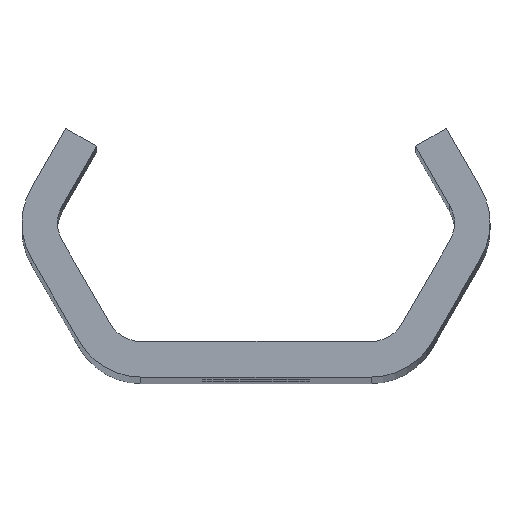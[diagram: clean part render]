
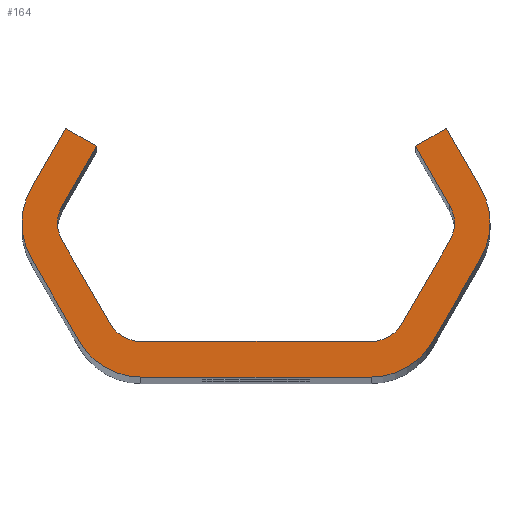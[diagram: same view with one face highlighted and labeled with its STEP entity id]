
A CAD part, top view. The second image highlights one B-rep face of the part: STEP entity #164.
In plain terms, the highlighted planar face has unit normal (0, 0, 1).
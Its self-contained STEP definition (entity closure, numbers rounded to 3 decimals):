
#164=ADVANCED_FACE('NONE',(#402),#403,.F.);
#402=FACE_OUTER_BOUND('',#1046,.T.);
#403=PLANE('',#1047);
#1046=EDGE_LOOP('',(#2030,#2031,#2032,#2033,#2034,#2035,#2036,#2037,#2038,#2039,#2040,#2041,#2042,#2043,#2044,#2045,#2046,#2047,#2048,#2049,#2050,#2051,#2052,#2053));
#1047=AXIS2_PLACEMENT_3D('',#2054,#2055,#2056);
#2030=ORIENTED_EDGE('',*,*,#2749,.T.);
#2031=ORIENTED_EDGE('',*,*,#2764,.T.);
#2032=ORIENTED_EDGE('',*,*,#2662,.T.);
#2033=ORIENTED_EDGE('',*,*,#2751,.T.);
#2034=ORIENTED_EDGE('',*,*,#2765,.T.);
#2035=ORIENTED_EDGE('',*,*,#2755,.T.);
#2036=ORIENTED_EDGE('',*,*,#2766,.T.);
#2037=ORIENTED_EDGE('',*,*,#2669,.T.);
#2038=ORIENTED_EDGE('',*,*,#2767,.T.);
#2039=ORIENTED_EDGE('',*,*,#2615,.T.);
#2040=ORIENTED_EDGE('',*,*,#2672,.T.);
#2041=ORIENTED_EDGE('',*,*,#2678,.T.);
#2042=ORIENTED_EDGE('',*,*,#2681,.T.);
#2043=ORIENTED_EDGE('',*,*,#2659,.T.);
#2044=ORIENTED_EDGE('',*,*,#2768,.T.);
#2045=ORIENTED_EDGE('',*,*,#2683,.T.);
#2046=ORIENTED_EDGE('',*,*,#2769,.T.);
#2047=ORIENTED_EDGE('',*,*,#2690,.T.);
#2048=ORIENTED_EDGE('',*,*,#2770,.T.);
#2049=ORIENTED_EDGE('',*,*,#2736,.T.);
#2050=ORIENTED_EDGE('',*,*,#2771,.T.);
#2051=ORIENTED_EDGE('',*,*,#2610,.T.);
#2052=ORIENTED_EDGE('',*,*,#2739,.T.);
#2053=ORIENTED_EDGE('',*,*,#2745,.T.);
#2054=CARTESIAN_POINT('',(0.0,0.0,320.0));
#2055=DIRECTION('',(0.0,0.0,-1.0));
#2056=DIRECTION('',(0.0,-1.0,0.0));
#2610=EDGE_CURVE('NONE',#2940,#2944,#2946,.T.);
#2615=EDGE_CURVE('NONE',#2949,#2953,#2955,.T.);
#2659=EDGE_CURVE('NONE',#3034,#3032,#3035,.T.);
#2662=EDGE_CURVE('NONE',#3038,#3039,#3040,.T.);
#2669=EDGE_CURVE('NONE',#3052,#3050,#3053,.T.);
#2672=EDGE_CURVE('NONE',#2953,#3056,#3057,.T.);
#2678=EDGE_CURVE('NONE',#3056,#3064,#3066,.T.);
#2681=EDGE_CURVE('NONE',#3064,#3034,#3069,.T.);
#2683=EDGE_CURVE('NONE',#3071,#3072,#3073,.T.);
#2690=EDGE_CURVE('NONE',#3085,#3083,#3086,.T.);
#2736=EDGE_CURVE('NONE',#3170,#3168,#3171,.T.);
#2739=EDGE_CURVE('NONE',#2944,#3174,#3175,.T.);
#2745=EDGE_CURVE('NONE',#3174,#3182,#3184,.T.);
#2749=EDGE_CURVE('NONE',#3182,#3188,#3190,.T.);
#2751=EDGE_CURVE('NONE',#3039,#3192,#3193,.T.);
#2755=EDGE_CURVE('NONE',#3198,#3199,#3200,.T.);
#2764=EDGE_CURVE('NONE',#3188,#3038,#3211,.T.);
#2765=EDGE_CURVE('NONE',#3192,#3198,#3212,.T.);
#2766=EDGE_CURVE('NONE',#3199,#3052,#3213,.T.);
#2767=EDGE_CURVE('NONE',#3050,#2949,#3214,.T.);
#2768=EDGE_CURVE('NONE',#3032,#3071,#3215,.T.);
#2769=EDGE_CURVE('NONE',#3072,#3085,#3216,.T.);
#2770=EDGE_CURVE('NONE',#3083,#3170,#3217,.T.);
#2771=EDGE_CURVE('NONE',#3168,#2940,#3218,.T.);
#2940=VERTEX_POINT('',#3432);
#2944=VERTEX_POINT('NONE',#3437);
#2946=CIRCLE('',#3440,3.0);
#2949=VERTEX_POINT('',#3443);
#2953=VERTEX_POINT('NONE',#3448);
#2955=CIRCLE('',#3451,6.0);
#3032=VERTEX_POINT('NONE',#3886);
#3034=VERTEX_POINT('NONE',#3889);
#3035=CIRCLE('',#3890,3.0);
#3038=VERTEX_POINT('NONE',#3894);
#3039=VERTEX_POINT('NONE',#3895);
#3040=CIRCLE('',#3896,6.0);
#3050=VERTEX_POINT('NONE',#3909);
#3052=VERTEX_POINT('NONE',#3912);
#3053=LINE('',#3913,#3914);
#3056=VERTEX_POINT('NONE',#3918);
#3057=LINE('',#3919,#3920);
#3064=VERTEX_POINT('NONE',#3930);
#3066=LINE('',#3933,#3934);
#3069=LINE('',#3938,#3939);
#3071=VERTEX_POINT('NONE',#3941);
#3072=VERTEX_POINT('NONE',#3942);
#3073=LINE('',#3943,#3944);
#3083=VERTEX_POINT('NONE',#3958);
#3085=VERTEX_POINT('NONE',#3961);
#3086=LINE('',#3962,#3963);
#3168=VERTEX_POINT('NONE',#4247);
#3170=VERTEX_POINT('NONE',#4250);
#3171=LINE('',#4251,#4252);
#3174=VERTEX_POINT('NONE',#4256);
#3175=LINE('',#4257,#4258);
#3182=VERTEX_POINT('NONE',#4268);
#3184=LINE('',#4271,#4272);
#3188=VERTEX_POINT('NONE',#4277);
#3190=LINE('',#4280,#4281);
#3192=VERTEX_POINT('NONE',#4283);
#3193=LINE('',#4284,#4285);
#3198=VERTEX_POINT('NONE',#4292);
#3199=VERTEX_POINT('NONE',#4293);
#3200=LINE('',#4294,#4295);
#3211=CIRCLE('',#4309,6.0);
#3212=CIRCLE('',#4310,6.0);
#3213=CIRCLE('',#4311,6.0);
#3214=CIRCLE('',#4312,6.0);
#3215=CIRCLE('',#4313,3.0);
#3216=CIRCLE('',#4314,3.0);
#3217=CIRCLE('',#4315,3.0);
#3218=CIRCLE('',#4316,3.0);
#3432=CARTESIAN_POINT('',(-16.764,0.,320.0));
#3437=CARTESIAN_POINT('',(-16.362,1.5,320.0));
#3440=AXIS2_PLACEMENT_3D('',#4983,#4984,#4985);
#3443=CARTESIAN_POINT('',(19.764,0.,320.0));
#3448=CARTESIAN_POINT('',(18.96,3.,320.0));
#3451=AXIS2_PLACEMENT_3D('',#4991,#4992,#4993);
#3886=CARTESIAN_POINT('',(16.764,0.,320.0));
#3889=CARTESIAN_POINT('',(16.362,1.5,320.0));
#3890=AXIS2_PLACEMENT_3D('',#5038,#5039,#5040);
#3894=CARTESIAN_POINT('',(-19.764,0.,320.0));
#3895=CARTESIAN_POINT('',(-18.96,-3.,320.0));
#3896=AXIS2_PLACEMENT_3D('',#5042,#5043,#5044);
#3909=CARTESIAN_POINT('',(18.96,-3.,320.0));
#3912=CARTESIAN_POINT('',(14.919,-10.,320.0));
#3913=CARTESIAN_POINT('',(20.692,0.,320.0));
#3914=VECTOR('',#5052,1000.0);
#3918=CARTESIAN_POINT('',(16.074,8.,320.0));
#3919=CARTESIAN_POINT('',(16.074,8.,320.0));
#3920=VECTOR('',#5054,1000.0);
#3930=CARTESIAN_POINT('',(13.475,6.5,320.0));
#3933=CARTESIAN_POINT('',(13.475,6.5,320.0));
#3934=VECTOR('',#5059,1000.0);
#3938=CARTESIAN_POINT('',(17.228,0.,320.0));
#3939=VECTOR('',#5061,1000.0);
#3941=CARTESIAN_POINT('',(16.362,-1.5,320.0));
#3942=CARTESIAN_POINT('',(12.321,-8.5,320.0));
#3943=CARTESIAN_POINT('',(11.455,-10.0,320.0));
#3944=VECTOR('',#5062,1000.0);
#3958=CARTESIAN_POINT('',(-9.723,-10.0,320.0));
#3961=CARTESIAN_POINT('',(9.723,-10.0,320.0));
#3962=CARTESIAN_POINT('',(-11.455,-10.0,320.0));
#3963=VECTOR('',#5068,1000.0);
#4247=CARTESIAN_POINT('',(-16.362,-1.5,320.0));
#4250=CARTESIAN_POINT('',(-12.321,-8.5,320.0));
#4251=CARTESIAN_POINT('',(-17.228,0.,320.0));
#4252=VECTOR('',#5117,1000.0);
#4256=CARTESIAN_POINT('',(-13.475,6.5,320.0));
#4257=CARTESIAN_POINT('',(-13.475,6.5,320.0));
#4258=VECTOR('',#5119,1000.0);
#4268=CARTESIAN_POINT('',(-16.074,8.,320.0));
#4271=CARTESIAN_POINT('',(-13.475,6.5,320.0));
#4272=VECTOR('',#5124,1000.0);
#4277=CARTESIAN_POINT('',(-18.96,3.,320.0));
#4280=CARTESIAN_POINT('',(-16.074,8.,320.0));
#4281=VECTOR('',#5127,1000.0);
#4283=CARTESIAN_POINT('',(-14.919,-10.,320.0));
#4284=CARTESIAN_POINT('',(-20.692,0.,320.0));
#4285=VECTOR('',#5128,1000.0);
#4292=CARTESIAN_POINT('',(-9.723,-13.0,320.0));
#4293=CARTESIAN_POINT('',(9.723,-13.0,320.0));
#4294=CARTESIAN_POINT('',(-13.187,-13.0,320.0));
#4295=VECTOR('',#5131,1000.0);
#4309=AXIS2_PLACEMENT_3D('',#5147,#5148,#5149);
#4310=AXIS2_PLACEMENT_3D('',#5150,#5151,#5152);
#4311=AXIS2_PLACEMENT_3D('',#5153,#5154,#5155);
#4312=AXIS2_PLACEMENT_3D('',#5156,#5157,#5158);
#4313=AXIS2_PLACEMENT_3D('',#5159,#5160,#5161);
#4314=AXIS2_PLACEMENT_3D('',#5162,#5163,#5164);
#4315=AXIS2_PLACEMENT_3D('',#5165,#5166,#5167);
#4316=AXIS2_PLACEMENT_3D('',#5168,#5169,#5170);
#4983=CARTESIAN_POINT('',(-13.764,0.,320.0));
#4984=DIRECTION('',(0.0,0.0,-1.0));
#4985=DIRECTION('',(-1.0,0.0,0.0));
#4991=CARTESIAN_POINT('',(13.764,0.,320.0));
#4992=DIRECTION('',(0.0,0.0,1.0));
#4993=DIRECTION('',(-1.0,0.0,0.0));
#5038=CARTESIAN_POINT('',(13.764,0.,320.0));
#5039=DIRECTION('',(0.0,0.0,-1.0));
#5040=DIRECTION('',(-1.0,0.0,0.0));
#5042=CARTESIAN_POINT('',(-13.764,0.,320.0));
#5043=DIRECTION('',(0.0,0.0,1.0));
#5044=DIRECTION('',(-1.0,0.0,0.0));
#5052=DIRECTION('',(0.5,0.866,-0.0));
#5054=DIRECTION('',(-0.5,0.866,-0.0));
#5059=DIRECTION('',(-0.866,-0.5,-0.0));
#5061=DIRECTION('',(0.5,-0.866,-0.0));
#5062=DIRECTION('',(-0.5,-0.866,-0.0));
#5068=DIRECTION('',(-1.0,0.,-0.0));
#5117=DIRECTION('',(-0.5,0.866,-0.0));
#5119=DIRECTION('',(0.5,0.866,-0.0));
#5124=DIRECTION('',(-0.866,0.5,0.0));
#5127=DIRECTION('',(-0.5,-0.866,0.0));
#5128=DIRECTION('',(0.5,-0.866,0.0));
#5131=DIRECTION('',(1.0,0.0,0.0));
#5147=CARTESIAN_POINT('',(-13.764,0.,320.0));
#5148=DIRECTION('',(0.0,0.0,1.0));
#5149=DIRECTION('',(-1.0,0.0,0.0));
#5150=CARTESIAN_POINT('',(-9.723,-7.0,320.0));
#5151=DIRECTION('',(0.0,0.0,1.0));
#5152=DIRECTION('',(-1.0,0.0,0.0));
#5153=CARTESIAN_POINT('',(9.723,-7.0,320.0));
#5154=DIRECTION('',(0.0,0.0,1.0));
#5155=DIRECTION('',(-1.0,0.,0.0));
#5156=CARTESIAN_POINT('',(13.764,0.,320.0));
#5157=DIRECTION('',(0.0,0.0,1.0));
#5158=DIRECTION('',(-1.0,0.0,0.0));
#5159=CARTESIAN_POINT('',(13.764,0.,320.0));
#5160=DIRECTION('',(0.0,0.0,-1.0));
#5161=DIRECTION('',(-1.0,0.0,0.0));
#5162=CARTESIAN_POINT('',(9.723,-7.0,320.0));
#5163=DIRECTION('',(0.0,0.0,-1.0));
#5164=DIRECTION('',(-1.0,0.0,0.0));
#5165=CARTESIAN_POINT('',(-9.723,-7.0,320.0));
#5166=DIRECTION('',(0.0,0.0,-1.0));
#5167=DIRECTION('',(-1.0,0.0,0.0));
#5168=CARTESIAN_POINT('',(-13.764,0.,320.0));
#5169=DIRECTION('',(0.0,0.0,-1.0));
#5170=DIRECTION('',(-1.0,0.0,0.0));
